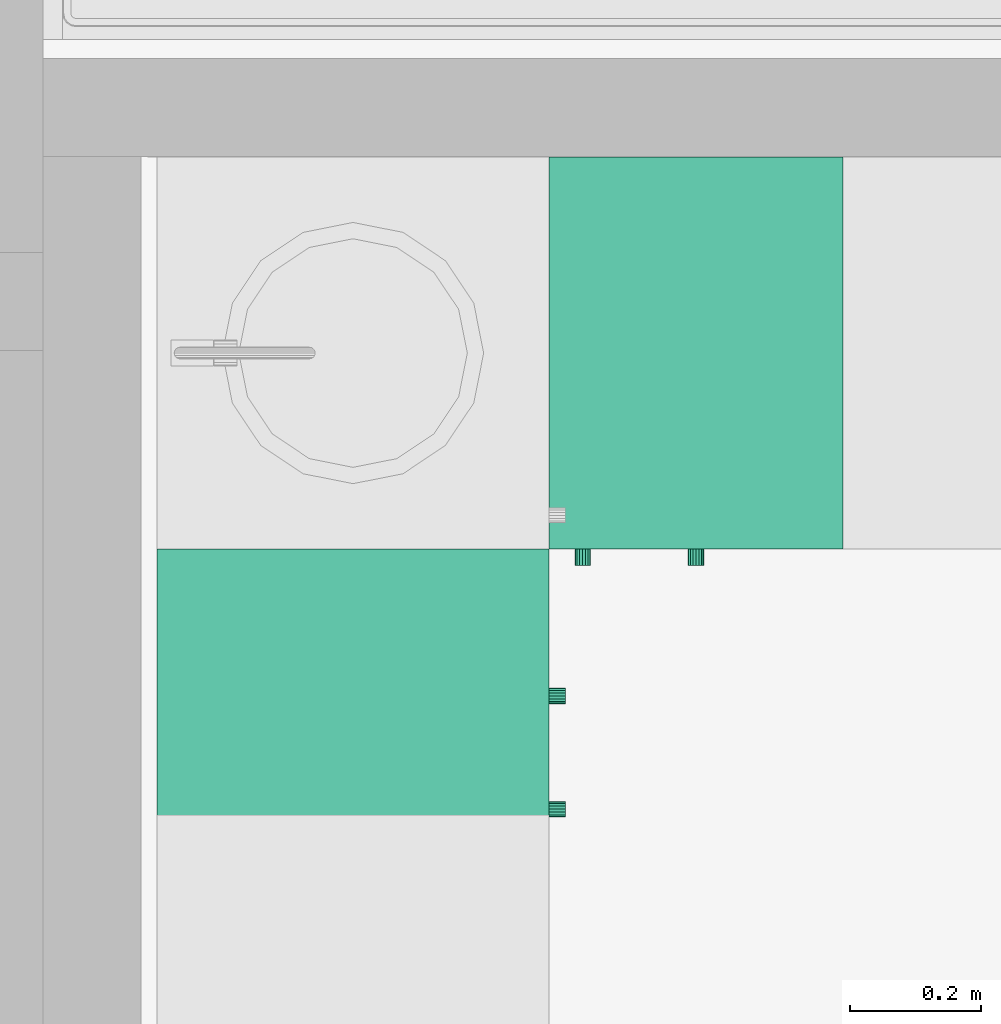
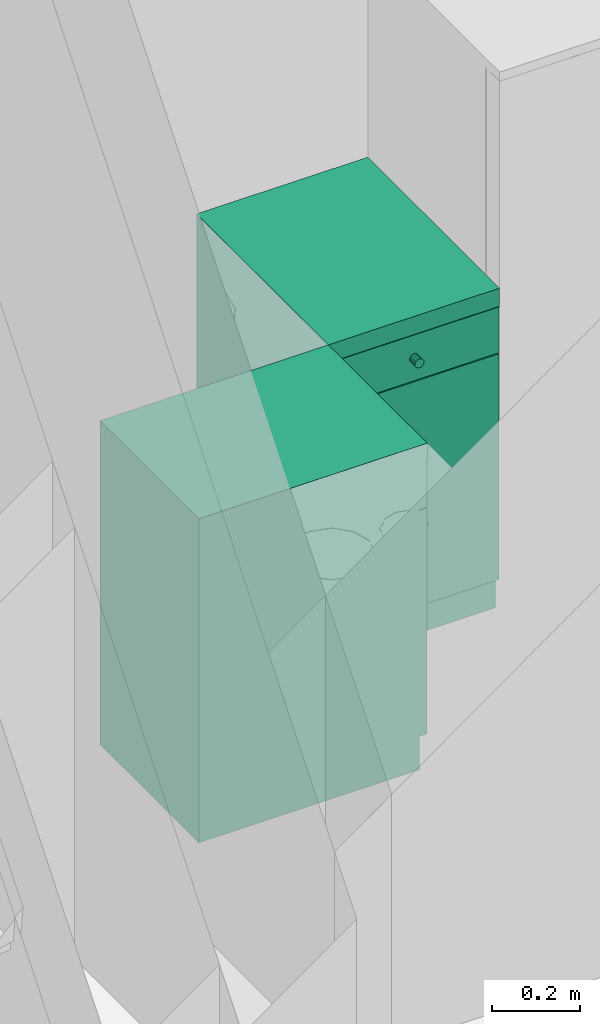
# One storey, part 48 of 165: 2 flow terminals.
"""IFC2X3 building model written with IfcOpenShell, lengths in millimetres."""

from ifc_helpers import new_model, entity, si_unit, converted_unit, money_unit, direction, frame, origin_with_axes, place, context, subcontext, project, spatial, faceted_brep, source, transform, mapped, material, material_list, type_object, element, save


model = new_model("IFC2X3")

# Units and contexts
model_context = context("Model", 3, precision=1e-05, world=origin_with_axes(), true_north=direction((0.0, 1.0)))
body_context = subcontext(model_context, "Body", "Model", "MODEL_VIEW")
ifc_project = project(units=[si_unit("LENGTHUNIT", "METRE", prefix="MILLI"), si_unit("AREAUNIT", "SQUARE_METRE"), si_unit("VOLUMEUNIT", "CUBIC_METRE"), converted_unit("PLANEANGLEUNIT", "DEGREE", entity("IfcPlaneAngleMeasure", 0.0174532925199), si_unit("PLANEANGLEUNIT", "RADIAN"), dimensions=[0, 0, 0, 0, 0, 0, 0]), si_unit("SOLIDANGLEUNIT", "STERADIAN"), money_unit("USD"), converted_unit("TIMEUNIT", "Year", entity("IfcTimeMeasure", 31556926.0), si_unit("TIMEUNIT", "SECOND"), dimensions=[0, 0, 0, 0, 0, 0, 0]), si_unit("MASSUNIT", "GRAM"), si_unit("THERMODYNAMICTEMPERATUREUNIT", "DEGREE_CELSIUS"), si_unit("LUMINOUSINTENSITYUNIT", "LUMEN")], contexts=[model_context])

# Site, building, storey
site_placement = place(None, origin_with_axes())
site = spatial("IfcSite", under=ifc_project, at=site_placement, Name="Site", CompositionType="ELEMENT")
building_placement = place(site_placement, origin_with_axes())
building = spatial("IfcBuilding", under=site, at=building_placement, Name="Building", CompositionType="ELEMENT")
storey_placement = place(building_placement, frame((0.0, 0.0, 6300.0), z_axis=(0.0, 0.0, 1.0), x_axis=(1.0, 0.0, 0.0)))
storey = spatial("IfcBuildingStorey", under=building, at=storey_placement, Name="4KORRUS", CompositionType="ELEMENT", Elevation=6300.0)

# Flow terminals
ifc_material = material(Name="Background")
ifc_material_list = material_list([ifc_material])
sanitary_terminal_type = type_object("IfcSanitaryTerminalType", Name="Cabinet Base Single Door 19", PredefinedType="SINK")
shared_shape_1 = source(origin_with_axes(), body_context, "Body", "Brep", [
    faceted_brep([(-20.0, 20.0, 710.0), (-20.0, 20.0, 730.0), (-430.0, 20.0, 730.0), (-430.0, 20.0, 710.0), (-20.0, 580.0, 710.0), (-20.0, 580.0, 730.0), (-430.0, 580.0, 730.0), (-430.0, 580.0, 710.0)], [[[0, 1, 2, 3]], [[4, 5, 1, 0]], [[1, 5, 6, 2]], [[3, 2, 6, 7]], [[0, 3, 7, 4]], [[7, 6, 5, 4]]]),
    faceted_brep([(0.0, 20.0, 0.0), (0.0, 20.0, 90.0), (-450.0, 20.0, 90.0), (-450.0, 20.0, 0.0), (0.0, 600.0, 0.0), (0.0, 600.0, 90.0), (-450.0, 600.0, 90.0), (-450.0, 600.0, 0.0)], [[[0, 1, 2, 3]], [[4, 5, 1, 0]], [[1, 5, 6, 2]], [[3, 2, 6, 7]], [[0, 3, 7, 4]], [[7, 6, 5, 4]]]),
    faceted_brep([(0.0, 20.0, 830.0), (0.0, 20.0, 850.0), (-20.0, 20.0, 850.0), (-20.0, 20.0, 830.0), (0.0, 600.0, 830.0), (0.0, 600.0, 850.0), (-20.0, 600.0, 850.0), (-430.0, 600.0, 850.0), (-450.0, 600.0, 850.0), (-450.0, 20.0, 850.0), (-430.0, 20.0, 850.0), (-430.0, 20.0, 830.0), (-450.0, 20.0, 830.0), (-450.0, 600.0, 830.0), (-430.0, 600.0, 830.0), (-20.0, 600.0, 830.0)], [[[0, 1, 2, 3]], [[4, 5, 1, 0]], [[1, 5, 6, 7, 8, 9, 10, 2]], [[3, 2, 10, 11]], [[0, 3, 11, 12, 13, 14, 15, 4]], [[15, 6, 5, 4]], [[14, 7, 6, 15]], [[13, 8, 7, 14]], [[12, 9, 8, 13]], [[11, 10, 9, 12]]]),
    faceted_brep([(0.0, 20.0, 90.0), (0.0, 20.0, 110.0), (-20.0, 20.0, 110.0), (-20.0, 20.0, 90.0), (0.0, 600.0, 90.0), (0.0, 600.0, 110.0), (-20.0, 600.0, 110.0), (-430.0, 600.0, 110.0), (-450.0, 600.0, 110.0), (-450.0, 20.0, 110.0), (-430.0, 20.0, 110.0), (-430.0, 20.0, 90.0), (-450.0, 20.0, 90.0), (-450.0, 600.0, 90.0), (-430.0, 600.0, 90.0), (-20.0, 600.0, 90.0)], [[[0, 1, 2, 3]], [[4, 5, 1, 0]], [[1, 5, 6, 7, 8, 9, 10, 2]], [[3, 2, 10, 11]], [[0, 3, 11, 12, 13, 14, 15, 4]], [[15, 6, 5, 4]], [[14, 7, 6, 15]], [[13, 8, 7, 14]], [[12, 9, 8, 13]], [[11, 10, 9, 12]]]),
    faceted_brep([(0.0, 20.0, 110.0), (0.0, 20.0, 830.0), (-20.0, 20.0, 830.0), (-20.0, 20.0, 110.0), (0.0, 600.0, 110.0), (0.0, 600.0, 830.0), (-450.0, 600.0, 830.0), (-450.0, 20.0, 830.0), (-430.0, 20.0, 830.0), (-430.0, 580.0, 830.0), (-20.0, 580.0, 830.0), (-20.0, 580.0, 110.0), (-430.0, 580.0, 110.0), (-430.0, 20.0, 110.0), (-450.0, 20.0, 110.0), (-450.0, 600.0, 110.0)], [[[0, 1, 2, 3]], [[4, 5, 1, 0]], [[1, 5, 6, 7, 8, 9, 10, 2]], [[3, 2, 10, 11]], [[0, 3, 11, 12, 13, 14, 15, 4]], [[15, 6, 5, 4]], [[14, 7, 6, 15]], [[13, 8, 7, 14]], [[12, 9, 8, 13]], [[11, 10, 9, 12]]]),
    faceted_brep([(-430.0, 20.0, 385.0), (-430.0, 20.0, 405.0), (-430.0, 580.0, 405.0), (-430.0, 580.0, 385.0), (-20.0, 20.0, 385.0), (-20.0, 20.0, 405.0), (-20.0, 580.0, 405.0), (-20.0, 580.0, 385.0)], [[[0, 1, 2, 3]], [[4, 5, 1, 0]], [[1, 5, 6, 2]], [[3, 2, 6, 7]], [[0, 3, 7, 4]], [[7, 6, 5, 4]]]),
    faceted_brep([(0.0, 0.0, 850.0), (0.0, 0.0, 900.0), (-450.0, 0.0, 900.0), (-450.0, 0.0, 850.0), (0.0, 600.0, 850.0), (0.0, 600.0, 900.0), (-450.0, 600.0, 900.0), (-450.0, 600.0, 850.0)], [[[0, 1, 2, 3]], [[4, 5, 1, 0]], [[1, 5, 6, 2]], [[3, 2, 6, 7]], [[0, 3, 7, 4]], [[7, 6, 5, 4]]]),
    faceted_brep([(-1.5, 20.0, 721.5), (-1.5, 0.0, 721.5), (-448.5, 0.0, 721.5), (-448.5, 20.0, 721.5), (-1.5, 20.0, 848.5), (-1.5, 0.0, 848.5), (-448.5, 0.0, 848.5), (-448.5, 20.0, 848.5)], [[[0, 1, 2, 3]], [[4, 5, 1, 0]], [[1, 5, 6, 2]], [[3, 2, 6, 7]], [[0, 3, 7, 4]], [[7, 6, 5, 4]]]),
    faceted_brep([(-220.408, 0.0, 773.913), (-225.0, 0.0, 773.0), (-229.592, 0.0, 773.913), (-233.485, 0.0, 776.515), (-236.087, 0.0, 780.408), (-237.0, 0.0, 785.0), (-236.087, 0.0, 789.592), (-233.485, 0.0, 793.485), (-229.592, 0.0, 796.087), (-225.0, 0.0, 797.0), (-220.408, 0.0, 796.087), (-216.515, 0.0, 793.485), (-213.913, 0.0, 789.592), (-213.0, 0.0, 785.0), (-213.913, 0.0, 780.408), (-216.515, 0.0, 776.515), (-220.408, -25.0, 773.913), (-225.0, -25.0, 773.0), (-229.592, -25.0, 773.913), (-233.485, -25.0, 776.515), (-236.087, -25.0, 780.408), (-237.0, -25.0, 785.0), (-236.087, -25.0, 789.592), (-233.485, -25.0, 793.485), (-229.592, -25.0, 796.087), (-225.0, -25.0, 797.0), (-220.408, -25.0, 796.087), (-216.515, -25.0, 793.485), (-213.913, -25.0, 789.592), (-213.0, -25.0, 785.0), (-213.913, -25.0, 780.408), (-216.515, -25.0, 776.515)], [[[0, 1, 2, 3, 4, 5, 6, 7, 8, 9, 10, 11, 12, 13, 14, 15]], [[0, 16, 17, 1]], [[1, 17, 18, 2]], [[2, 18, 19, 3]], [[3, 19, 20, 4]], [[4, 20, 21, 5]], [[5, 21, 22, 6]], [[6, 22, 23, 7]], [[7, 23, 24, 8]], [[8, 24, 25, 9]], [[9, 25, 26, 10]], [[10, 26, 27, 11]], [[11, 27, 28, 12]], [[12, 28, 29, 13]], [[13, 29, 30, 14]], [[14, 30, 31, 15]], [[15, 31, 16, 0]], [[16, 31, 30, 29, 28, 27, 26, 25, 24, 23, 22, 21, 20, 19, 18, 17]]]),
    faceted_brep([(-1.5, 20.0, 91.5), (-1.5, 0.0, 91.5), (-448.5, 0.0, 91.5), (-448.5, 20.0, 91.5), (-1.5, 20.0, 718.5), (-1.5, 0.0, 718.5), (-448.5, 0.0, 718.5), (-448.5, 20.0, 718.5)], [[[0, 1, 2, 3]], [[4, 5, 1, 0]], [[1, 5, 6, 2]], [[3, 2, 6, 7]], [[0, 3, 7, 4]], [[7, 6, 5, 4]]]),
    faceted_brep([(-409.587, 0.0, 636.908), (-410.5, 0.0, 641.5), (-409.587, 0.0, 646.092), (-406.985, 0.0, 649.985), (-403.092, 0.0, 652.587), (-398.5, 0.0, 653.5), (-393.908, 0.0, 652.587), (-390.015, 0.0, 649.985), (-387.413, 0.0, 646.092), (-386.5, 0.0, 641.5), (-387.413, 0.0, 636.908), (-390.015, 0.0, 633.015), (-393.908, 0.0, 630.413), (-398.5, 0.0, 629.5), (-403.092, 0.0, 630.413), (-406.985, 0.0, 633.015), (-409.587, -25.0, 636.908), (-410.5, -25.0, 641.5), (-409.587, -25.0, 646.092), (-406.985, -25.0, 649.985), (-403.092, -25.0, 652.587), (-398.5, -25.0, 653.5), (-393.908, -25.0, 652.587), (-390.015, -25.0, 649.985), (-387.413, -25.0, 646.092), (-386.5, -25.0, 641.5), (-387.413, -25.0, 636.908), (-390.015, -25.0, 633.015), (-393.908, -25.0, 630.413), (-398.5, -25.0, 629.5), (-403.092, -25.0, 630.413), (-406.985, -25.0, 633.015)], [[[0, 1, 2, 3, 4, 5, 6, 7, 8, 9, 10, 11, 12, 13, 14, 15]], [[0, 16, 17, 1]], [[1, 17, 18, 2]], [[2, 18, 19, 3]], [[3, 19, 20, 4]], [[4, 20, 21, 5]], [[5, 21, 22, 6]], [[6, 22, 23, 7]], [[7, 23, 24, 8]], [[8, 24, 25, 9]], [[9, 25, 26, 10]], [[10, 26, 27, 11]], [[11, 27, 28, 12]], [[12, 28, 29, 13]], [[13, 29, 30, 14]], [[14, 30, 31, 15]], [[15, 31, 16, 0]], [[16, 31, 30, 29, 28, 27, 26, 25, 24, 23, 22, 21, 20, 19, 18, 17]]]),
])
flow_terminal_1_placement = place(storey_placement, frame((12784.2564771, -9670.3690093, 0.0), z_axis=(0.0, 0.0, 1.0), x_axis=(0.0, 1.0, 0.0)))
element("IfcFlowTerminal", 1, at=flow_terminal_1_placement, inside=storey, type_object=sanitary_terminal_type, material=ifc_material_list, Name="FU - 007", context=body_context, shape_type="MappedRepresentation", body=[
    mapped(shared_shape_1, transform((0.0, 0.0, 0.0))),
])
shared_shape_2 = source(origin_with_axes(), body_context, "Body", "Brep", [
    faceted_brep([(-20.0, 20.0, 710.0), (-20.0, 20.0, 730.0), (-430.0, 20.0, 730.0), (-430.0, 20.0, 710.0), (-20.0, 580.0, 710.0), (-20.0, 580.0, 730.0), (-430.0, 580.0, 730.0), (-430.0, 580.0, 710.0)], [[[0, 1, 2, 3]], [[4, 5, 1, 0]], [[1, 5, 6, 2]], [[3, 2, 6, 7]], [[0, 3, 7, 4]], [[7, 6, 5, 4]]]),
    faceted_brep([(0.0, 20.0, 0.0), (0.0, 20.0, 90.0), (-450.0, 20.0, 90.0), (-450.0, 20.0, 0.0), (0.0, 600.0, 0.0), (0.0, 600.0, 90.0), (-450.0, 600.0, 90.0), (-450.0, 600.0, 0.0)], [[[0, 1, 2, 3]], [[4, 5, 1, 0]], [[1, 5, 6, 2]], [[3, 2, 6, 7]], [[0, 3, 7, 4]], [[7, 6, 5, 4]]]),
    faceted_brep([(0.0, 20.0, 830.0), (0.0, 20.0, 850.0), (-20.0, 20.0, 850.0), (-20.0, 20.0, 830.0), (0.0, 600.0, 830.0), (0.0, 600.0, 850.0), (-20.0, 600.0, 850.0), (-430.0, 600.0, 850.0), (-450.0, 600.0, 850.0), (-450.0, 20.0, 850.0), (-430.0, 20.0, 850.0), (-430.0, 20.0, 830.0), (-450.0, 20.0, 830.0), (-450.0, 600.0, 830.0), (-430.0, 600.0, 830.0), (-20.0, 600.0, 830.0)], [[[0, 1, 2, 3]], [[4, 5, 1, 0]], [[1, 5, 6, 7, 8, 9, 10, 2]], [[3, 2, 10, 11]], [[0, 3, 11, 12, 13, 14, 15, 4]], [[15, 6, 5, 4]], [[14, 7, 6, 15]], [[13, 8, 7, 14]], [[12, 9, 8, 13]], [[11, 10, 9, 12]]]),
    faceted_brep([(0.0, 20.0, 90.0), (0.0, 20.0, 110.0), (-20.0, 20.0, 110.0), (-20.0, 20.0, 90.0), (0.0, 600.0, 90.0), (0.0, 600.0, 110.0), (-20.0, 600.0, 110.0), (-430.0, 600.0, 110.0), (-450.0, 600.0, 110.0), (-450.0, 20.0, 110.0), (-430.0, 20.0, 110.0), (-430.0, 20.0, 90.0), (-450.0, 20.0, 90.0), (-450.0, 600.0, 90.0), (-430.0, 600.0, 90.0), (-20.0, 600.0, 90.0)], [[[0, 1, 2, 3]], [[4, 5, 1, 0]], [[1, 5, 6, 7, 8, 9, 10, 2]], [[3, 2, 10, 11]], [[0, 3, 11, 12, 13, 14, 15, 4]], [[15, 6, 5, 4]], [[14, 7, 6, 15]], [[13, 8, 7, 14]], [[12, 9, 8, 13]], [[11, 10, 9, 12]]]),
    faceted_brep([(0.0, 20.0, 110.0), (0.0, 20.0, 830.0), (-20.0, 20.0, 830.0), (-20.0, 20.0, 110.0), (0.0, 600.0, 110.0), (0.0, 600.0, 830.0), (-450.0, 600.0, 830.0), (-450.0, 20.0, 830.0), (-430.0, 20.0, 830.0), (-430.0, 580.0, 830.0), (-20.0, 580.0, 830.0), (-20.0, 580.0, 110.0), (-430.0, 580.0, 110.0), (-430.0, 20.0, 110.0), (-450.0, 20.0, 110.0), (-450.0, 600.0, 110.0)], [[[0, 1, 2, 3]], [[4, 5, 1, 0]], [[1, 5, 6, 7, 8, 9, 10, 2]], [[3, 2, 10, 11]], [[0, 3, 11, 12, 13, 14, 15, 4]], [[15, 6, 5, 4]], [[14, 7, 6, 15]], [[13, 8, 7, 14]], [[12, 9, 8, 13]], [[11, 10, 9, 12]]]),
    faceted_brep([(-430.0, 20.0, 385.0), (-430.0, 20.0, 405.0), (-430.0, 580.0, 405.0), (-430.0, 580.0, 385.0), (-20.0, 20.0, 385.0), (-20.0, 20.0, 405.0), (-20.0, 580.0, 405.0), (-20.0, 580.0, 385.0)], [[[0, 1, 2, 3]], [[4, 5, 1, 0]], [[1, 5, 6, 2]], [[3, 2, 6, 7]], [[0, 3, 7, 4]], [[7, 6, 5, 4]]]),
    faceted_brep([(0.0, 0.0, 850.0), (0.0, 0.0, 900.0), (-450.0, 0.0, 900.0), (-450.0, 0.0, 850.0), (0.0, 600.0, 850.0), (0.0, 600.0, 900.0), (-450.0, 600.0, 900.0), (-450.0, 600.0, 850.0)], [[[0, 1, 2, 3]], [[4, 5, 1, 0]], [[1, 5, 6, 2]], [[3, 2, 6, 7]], [[0, 3, 7, 4]], [[7, 6, 5, 4]]]),
    faceted_brep([(-1.5, 20.0, 721.5), (-1.5, 0.0, 721.5), (-448.5, 0.0, 721.5), (-448.5, 20.0, 721.5), (-1.5, 20.0, 848.5), (-1.5, 0.0, 848.5), (-448.5, 0.0, 848.5), (-448.5, 20.0, 848.5)], [[[0, 1, 2, 3]], [[4, 5, 1, 0]], [[1, 5, 6, 2]], [[3, 2, 6, 7]], [[0, 3, 7, 4]], [[7, 6, 5, 4]]]),
    faceted_brep([(-220.408, 0.0, 773.913), (-225.0, 0.0, 773.0), (-229.592, 0.0, 773.913), (-233.485, 0.0, 776.515), (-236.087, 0.0, 780.408), (-237.0, 0.0, 785.0), (-236.087, 0.0, 789.592), (-233.485, 0.0, 793.485), (-229.592, 0.0, 796.087), (-225.0, 0.0, 797.0), (-220.408, 0.0, 796.087), (-216.515, 0.0, 793.485), (-213.913, 0.0, 789.592), (-213.0, 0.0, 785.0), (-213.913, 0.0, 780.408), (-216.515, 0.0, 776.515), (-220.408, -25.0, 773.913), (-225.0, -25.0, 773.0), (-229.592, -25.0, 773.913), (-233.485, -25.0, 776.515), (-236.087, -25.0, 780.408), (-237.0, -25.0, 785.0), (-236.087, -25.0, 789.592), (-233.485, -25.0, 793.485), (-229.592, -25.0, 796.087), (-225.0, -25.0, 797.0), (-220.408, -25.0, 796.087), (-216.515, -25.0, 793.485), (-213.913, -25.0, 789.592), (-213.0, -25.0, 785.0), (-213.913, -25.0, 780.408), (-216.515, -25.0, 776.515)], [[[0, 1, 2, 3, 4, 5, 6, 7, 8, 9, 10, 11, 12, 13, 14, 15]], [[0, 16, 17, 1]], [[1, 17, 18, 2]], [[2, 18, 19, 3]], [[3, 19, 20, 4]], [[4, 20, 21, 5]], [[5, 21, 22, 6]], [[6, 22, 23, 7]], [[7, 23, 24, 8]], [[8, 24, 25, 9]], [[9, 25, 26, 10]], [[10, 26, 27, 11]], [[11, 27, 28, 12]], [[12, 28, 29, 13]], [[13, 29, 30, 14]], [[14, 30, 31, 15]], [[15, 31, 16, 0]], [[16, 31, 30, 29, 28, 27, 26, 25, 24, 23, 22, 21, 20, 19, 18, 17]]]),
    faceted_brep([(-1.5, 20.0, 91.5), (-1.5, 0.0, 91.5), (-448.5, 0.0, 91.5), (-448.5, 20.0, 91.5), (-1.5, 20.0, 718.5), (-1.5, 0.0, 718.5), (-448.5, 0.0, 718.5), (-448.5, 20.0, 718.5)], [[[0, 1, 2, 3]], [[4, 5, 1, 0]], [[1, 5, 6, 2]], [[3, 2, 6, 7]], [[0, 3, 7, 4]], [[7, 6, 5, 4]]]),
    faceted_brep([(-409.587, 0.0, 636.908), (-410.5, 0.0, 641.5), (-409.587, 0.0, 646.092), (-406.985, 0.0, 649.985), (-403.092, 0.0, 652.587), (-398.5, 0.0, 653.5), (-393.908, 0.0, 652.587), (-390.015, 0.0, 649.985), (-387.413, 0.0, 646.092), (-386.5, 0.0, 641.5), (-387.413, 0.0, 636.908), (-390.015, 0.0, 633.015), (-393.908, 0.0, 630.413), (-398.5, 0.0, 629.5), (-403.092, 0.0, 630.413), (-406.985, 0.0, 633.015), (-409.587, -25.0, 636.908), (-410.5, -25.0, 641.5), (-409.587, -25.0, 646.092), (-406.985, -25.0, 649.985), (-403.092, -25.0, 652.587), (-398.5, -25.0, 653.5), (-393.908, -25.0, 652.587), (-390.015, -25.0, 649.985), (-387.413, -25.0, 646.092), (-386.5, -25.0, 641.5), (-387.413, -25.0, 636.908), (-390.015, -25.0, 633.015), (-393.908, -25.0, 630.413), (-398.5, -25.0, 629.5), (-403.092, -25.0, 630.413), (-406.985, -25.0, 633.015)], [[[0, 1, 2, 3, 4, 5, 6, 7, 8, 9, 10, 11, 12, 13, 14, 15]], [[0, 16, 17, 1]], [[1, 17, 18, 2]], [[2, 18, 19, 3]], [[3, 19, 20, 4]], [[4, 20, 21, 5]], [[5, 21, 22, 6]], [[6, 22, 23, 7]], [[7, 23, 24, 8]], [[8, 24, 25, 9]], [[9, 25, 26, 10]], [[10, 26, 27, 11]], [[11, 27, 28, 12]], [[12, 28, 29, 13]], [[13, 29, 30, 14]], [[14, 30, 31, 15]], [[15, 31, 16, 0]], [[16, 31, 30, 29, 28, 27, 26, 25, 24, 23, 22, 21, 20, 19, 18, 17]]]),
])
flow_terminal_2_placement = place(storey_placement, frame((13234.2564771, -9670.3690093, 0.0), z_axis=(0.0, 0.0, 1.0), x_axis=(1.0, 0.0, 0.0)))
element("IfcFlowTerminal", 2, at=flow_terminal_2_placement, inside=storey, type_object=sanitary_terminal_type, material=ifc_material_list, Name="FU - 007", context=body_context, shape_type="MappedRepresentation", body=[
    mapped(shared_shape_2, transform((0.0, 0.0, 0.0))),
])

save(model, "model.ifc")
